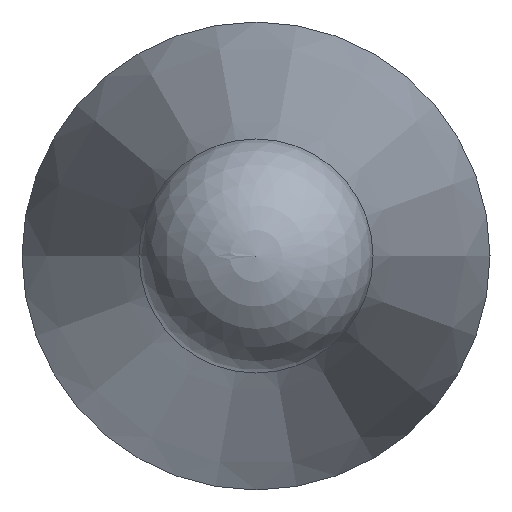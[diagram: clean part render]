
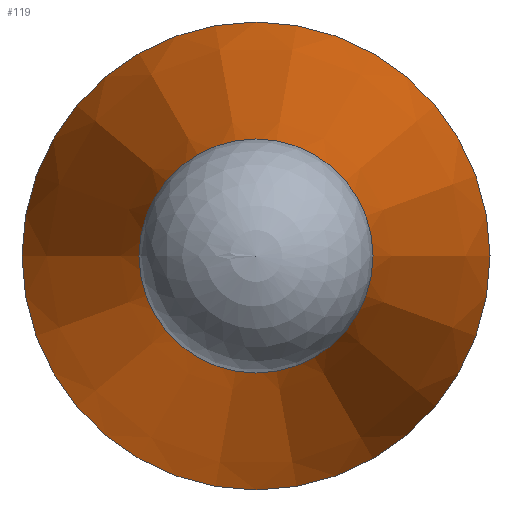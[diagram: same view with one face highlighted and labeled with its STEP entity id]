
A CAD part, left-side view. The second image highlights one B-rep face of the part: STEP entity #119.
In plain terms, the highlighted conical face has half-angle 11 degrees and reference radius 2 mm.
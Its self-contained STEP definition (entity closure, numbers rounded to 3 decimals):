
#93=CONICAL_SURFACE('',#191,2.,11.);
#106=FACE_BOUND('',#137,.T.);
#107=FACE_BOUND('',#138,.T.);
#119=ADVANCED_FACE('',(#106,#107),#93,.T.);
#137=EDGE_LOOP('',(#151));
#138=EDGE_LOOP('',(#152));
#151=ORIENTED_EDGE('',*,*,#168,.T.);
#152=ORIENTED_EDGE('',*,*,#169,.F.);
#161=VERTEX_POINT('',#244);
#162=VERTEX_POINT('',#247);
#168=EDGE_CURVE('',#161,#161,#175,.T.);
#169=EDGE_CURVE('',#162,#162,#176,.T.);
#175=CIRCLE('',#188,0.95);
#176=CIRCLE('',#190,2.);
#188=AXIS2_PLACEMENT_3D('',#243,#215,#216);
#190=AXIS2_PLACEMENT_3D('',#246,#219,#220);
#191=AXIS2_PLACEMENT_3D('',#248,#221,#222);
#215=DIRECTION('',(1.,0.,0.));
#216=DIRECTION('',(0.,1.,0.));
#219=DIRECTION('',(1.,0.,0.));
#220=DIRECTION('',(0.,1.,0.));
#221=DIRECTION('',(1.,0.,0.));
#222=DIRECTION('',(0.,1.,0.));
#243=CARTESIAN_POINT('',(7884.876,6110.222,0.));
#244=CARTESIAN_POINT('',(7884.876,6111.172,0.));
#246=CARTESIAN_POINT('',(7890.277,6110.222,0.));
#247=CARTESIAN_POINT('',(7890.277,6112.222,0.));
#248=CARTESIAN_POINT('',(7890.277,6110.222,0.));
